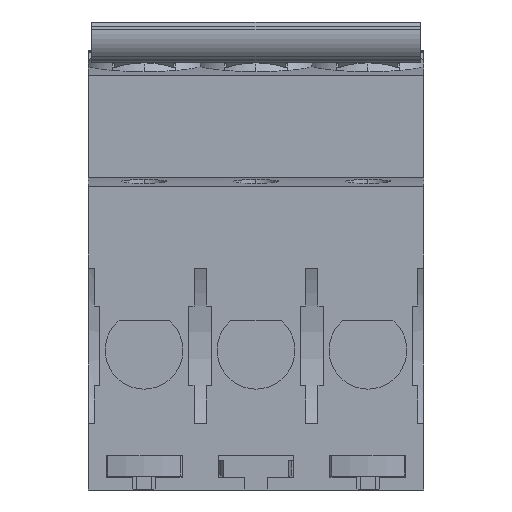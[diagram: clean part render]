
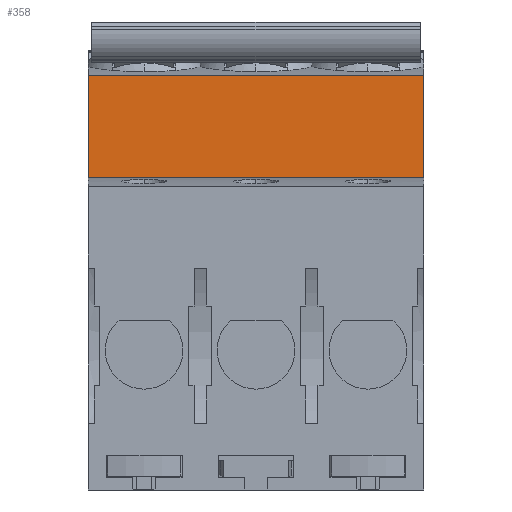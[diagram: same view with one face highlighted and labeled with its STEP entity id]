
A CAD part, front view. The second image highlights one B-rep face of the part: STEP entity #358.
In plain terms, the highlighted planar face has unit normal (0, -1, 0).
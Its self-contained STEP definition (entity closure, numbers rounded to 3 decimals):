
#358=ADVANCED_FACE('',(#1287),#1288,.T.);
#1287=FACE_OUTER_BOUND('',#2933,.T.);
#1288=PLANE('',#2934);
#2933=EDGE_LOOP('',(#5194,#5195,#5196,#5197));
#2934=AXIS2_PLACEMENT_3D('',#5198,#5199,#5200);
#5194=ORIENTED_EDGE('',*,*,#11267,.T.);
#5195=ORIENTED_EDGE('',*,*,#11500,.T.);
#5196=ORIENTED_EDGE('',*,*,#11376,.F.);
#5197=ORIENTED_EDGE('',*,*,#11501,.T.);
#5198=CARTESIAN_POINT('',(0.5,20.901,-5.936));
#5199=DIRECTION('',(0.0,-1.0,0.0));
#5200=DIRECTION('',(0.0,0.0,-1.0));
#11267=EDGE_CURVE('',#13591,#13589,#13592,.T.);
#11376=EDGE_CURVE('',#13771,#13773,#13774,.T.);
#11500=EDGE_CURVE('',#13589,#13773,#13980,.T.);
#11501=EDGE_CURVE('',#13771,#13591,#13981,.T.);
#13589=VERTEX_POINT('',#17414);
#13591=VERTEX_POINT('',#17417);
#13592=LINE('',#17418,#17419);
#13771=VERTEX_POINT('',#17667);
#13773=VERTEX_POINT('',#17669);
#13774=LINE('',#17670,#17671);
#13980=LINE('',#18143,#18144);
#13981=LINE('',#18145,#18146);
#17414=CARTESIAN_POINT('',(0.5,20.901,-22.065));
#17417=CARTESIAN_POINT('',(0.5,20.901,-5.931));
#17418=CARTESIAN_POINT('',(0.5,20.901,-5.931));
#17419=VECTOR('',#23229,16.135);
#17667=CARTESIAN_POINT('',(53.6,20.901,-5.931));
#17669=CARTESIAN_POINT('',(53.6,20.901,-22.065));
#17670=CARTESIAN_POINT('',(53.6,20.901,-5.931));
#17671=VECTOR('',#23478,16.135);
#18143=CARTESIAN_POINT('',(0.5,20.901,-22.065));
#18144=VECTOR('',#23688,53.1);
#18145=CARTESIAN_POINT('',(53.6,20.901,-5.931));
#18146=VECTOR('',#23689,53.1);
#23229=DIRECTION('',(0.0,0.0,-1.0));
#23478=DIRECTION('',(0.0,0.0,-1.0));
#23688=DIRECTION('',(1.0,0.0,0.0));
#23689=DIRECTION('',(-1.0,0.0,0.0));
